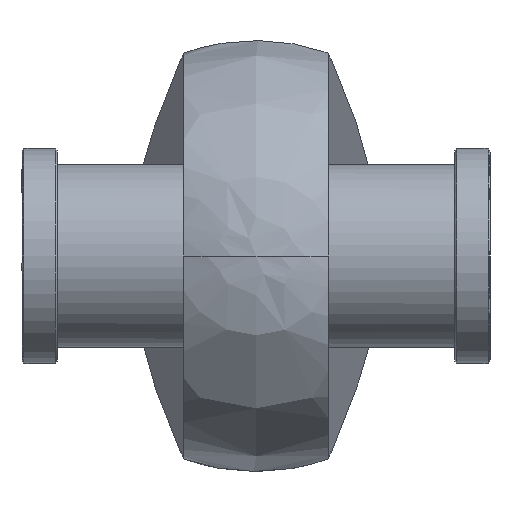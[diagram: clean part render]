
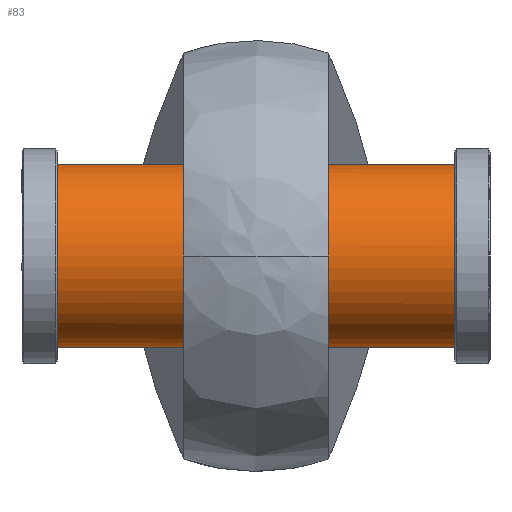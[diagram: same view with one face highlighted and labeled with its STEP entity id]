
A CAD part, left-side view. The second image highlights one B-rep face of the part: STEP entity #83.
In plain terms, the highlighted cylindrical face has radius 23.5 mm (diameter 47 mm), a full revolution.
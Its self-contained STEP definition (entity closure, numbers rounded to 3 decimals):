
#83=ADVANCED_FACE('',(#157),#1214,.T.);
#157=FACE_OUTER_BOUND('',#238,.T.);
#238=EDGE_LOOP('',(#506,#507,#508,#509));
#506=ORIENTED_EDGE('',*,*,#774,.T.);
#507=ORIENTED_EDGE('',*,*,#776,.T.);
#508=ORIENTED_EDGE('',*,*,#775,.T.);
#509=ORIENTED_EDGE('',*,*,#776,.F.);
#774=EDGE_CURVE('',#1128,#1128,#983,.T.);
#775=EDGE_CURVE('',#1129,#1129,#984,.T.);
#776=EDGE_CURVE('',#1128,#1129,#897,.T.);
#897=B_SPLINE_CURVE_WITH_KNOTS('',1,(#2248,#2249),.UNSPECIFIED.,.F.,.F.,
(2,2),(10.268,111.752),.UNSPECIFIED.);
#983=(
BOUNDED_CURVE()
B_SPLINE_CURVE(2,(#2230,#2231,#2232,#2233,#2234,#2235,#2236,#2237,#2238),
 .UNSPECIFIED.,.T.,.F.)
B_SPLINE_CURVE_WITH_KNOTS((3,2,2,2,3),(0.,36.914,73.827,
110.741,147.655),.UNSPECIFIED.)
CURVE()
GEOMETRIC_REPRESENTATION_ITEM()
RATIONAL_B_SPLINE_CURVE((1.,0.707,1.,0.707,1.,0.707,
1.,0.707,1.))
REPRESENTATION_ITEM('')
);
#984=(
BOUNDED_CURVE()
B_SPLINE_CURVE(2,(#2239,#2240,#2241,#2242,#2243,#2244,#2245,#2246,#2247),
 .UNSPECIFIED.,.T.,.F.)
B_SPLINE_CURVE_WITH_KNOTS((3,2,2,2,3),(0.,36.914,73.827,
110.741,147.655),.UNSPECIFIED.)
CURVE()
GEOMETRIC_REPRESENTATION_ITEM()
RATIONAL_B_SPLINE_CURVE((1.,0.707,1.,0.707,1.,0.707,
1.,0.707,1.))
REPRESENTATION_ITEM('')
);
#1128=VERTEX_POINT('',#2182);
#1129=VERTEX_POINT('',#2183);
#1214=CYLINDRICAL_SURFACE('',#1366,23.5);
#1366=AXIS2_PLACEMENT_3D('',#2172,#1412,$);
#1412=DIRECTION('',(0.,-1.,0.));
#2172=CARTESIAN_POINT('',(0.,0.,0.));
#2182=CARTESIAN_POINT('',(23.5,50.742,0.));
#2183=CARTESIAN_POINT('',(23.5,-50.742,0.));
#2230=CARTESIAN_POINT('',(23.5,50.742,0.));
#2231=CARTESIAN_POINT('',(23.5,50.742,23.5));
#2232=CARTESIAN_POINT('',(0.,50.742,23.5));
#2233=CARTESIAN_POINT('',(-23.5,50.742,23.5));
#2234=CARTESIAN_POINT('',(-23.5,50.742,0.));
#2235=CARTESIAN_POINT('',(-23.5,50.742,-23.5));
#2236=CARTESIAN_POINT('',(0.,50.742,-23.5));
#2237=CARTESIAN_POINT('',(23.5,50.742,-23.5));
#2238=CARTESIAN_POINT('',(23.5,50.742,0.));
#2239=CARTESIAN_POINT('',(23.5,-50.742,0.));
#2240=CARTESIAN_POINT('',(23.5,-50.742,-23.5));
#2241=CARTESIAN_POINT('',(0.,-50.742,-23.5));
#2242=CARTESIAN_POINT('',(-23.5,-50.742,-23.5));
#2243=CARTESIAN_POINT('',(-23.5,-50.742,0.));
#2244=CARTESIAN_POINT('',(-23.5,-50.742,23.5));
#2245=CARTESIAN_POINT('',(0.,-50.742,23.5));
#2246=CARTESIAN_POINT('',(23.5,-50.742,23.5));
#2247=CARTESIAN_POINT('',(23.5,-50.742,0.));
#2248=CARTESIAN_POINT('',(23.5,50.742,0.));
#2249=CARTESIAN_POINT('',(23.5,-50.742,0.));
